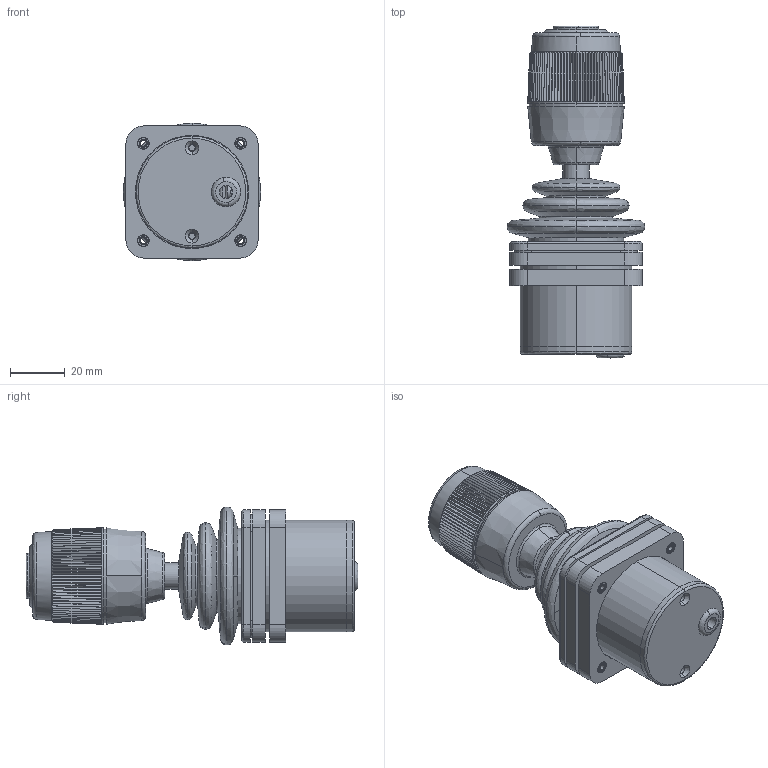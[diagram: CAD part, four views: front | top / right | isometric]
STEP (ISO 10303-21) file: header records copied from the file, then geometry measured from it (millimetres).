
FILE_DESCRIPTION (( 'STEP AP203' ), '1' );
FILE_NAME ('TRY10_5519121.STEP', '2016-05-12T08:23:33', ( '' ), ( '' ), 'SwSTEP 2.0', 'SolidWorks 2016', '' );
FILE_SCHEMA (( 'CONFIG_CONTROL_DESIGN' ));
Length unit declared in the file: millimetre
Products named in the file (1): TRY10_5519121
Bounding box: 50.32 x 121.32 x 50.32 mm (x, y, z)
Surface area: 49649.5 mm2 (no closed solid volume)
Topology: 0 solids, 15 shells, 908 faces, 2195 edges, 1367 vertices
Faces by surface type: plane 426, cylinder 250, cone 165, bspline 67
Entity records: 28518 total; most frequent: CARTESIAN_POINT 7516, ORIENTED_EDGE 4374, DIRECTION 4373, EDGE_CURVE 2195, AXIS2_PLACEMENT_3D 1758, VERTEX_POINT 1367, EDGE_LOOP 1034, CIRCLE 916
